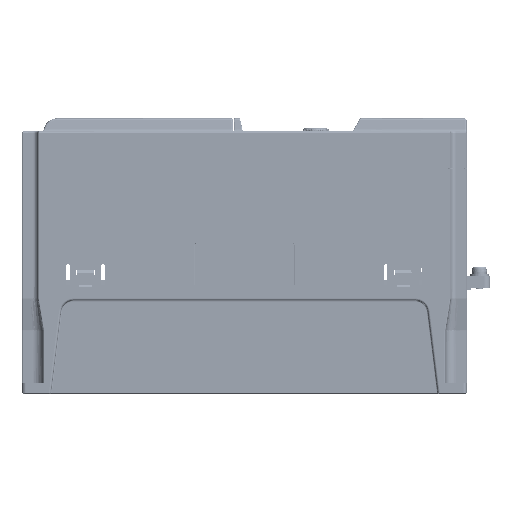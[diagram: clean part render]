
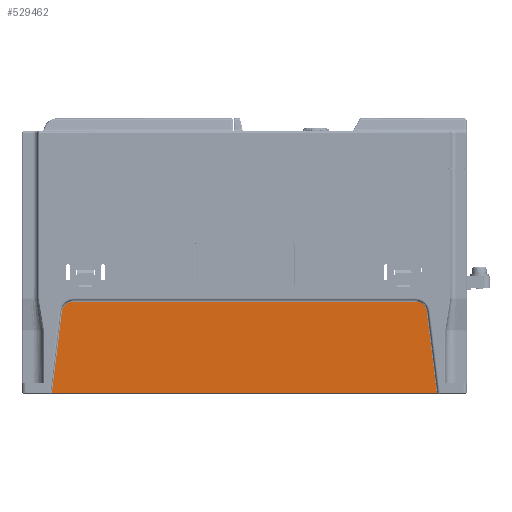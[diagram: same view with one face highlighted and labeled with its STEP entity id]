
A CAD part, left-side view. The second image highlights one B-rep face of the part: STEP entity #529462.
In plain terms, the highlighted planar face has unit normal (-1, 0, 0).
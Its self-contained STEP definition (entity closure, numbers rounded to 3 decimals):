
#485052=DIRECTION('',(0.,0.,-1.));
#485053=VECTOR('',#485052,181.675);
#485054=CARTESIAN_POINT('',(2.5,-6.5,-0.163));
#485055=LINE('',#485054,#485053);
#485059=DIRECTION('',(0.,0.993,0.122));
#485060=VECTOR('',#485059,38.457);
#485061=CARTESIAN_POINT('',(2.5,-6.5,-181.837));
#485062=LINE('',#485061,#485060);
#485066=CARTESIAN_POINT('',(2.5,31.,-171.692));
#485067=DIRECTION('',(1.,0.,0.));
#485068=DIRECTION('',(0.,0.122,-0.993));
#485069=AXIS2_PLACEMENT_3D('',#485066,#485067,#485068);
#485074=DIRECTION('',(0.,0.,1.));
#485075=VECTOR('',#485074,161.383);
#485076=CARTESIAN_POINT('',(2.5,36.5,-171.692));
#485077=LINE('',#485076,#485075);
#485081=CARTESIAN_POINT('',(2.5,31.,-10.308));
#485082=DIRECTION('',(1.,0.,0.));
#485083=DIRECTION('',(0.,1.,0.));
#485084=AXIS2_PLACEMENT_3D('',#485081,#485082,#485083);
#485089=DIRECTION('',(0.,-0.993,0.122));
#485090=VECTOR('',#485089,38.457);
#485091=CARTESIAN_POINT('',(2.5,31.67,-4.849));
#485092=LINE('',#485091,#485090);
#485096=CARTESIAN_POINT('',(2.5,-6.5,-181.837));
#504490=CARTESIAN_POINT('',(2.5,36.5,
-10.308));
#504491=CARTESIAN_POINT('',(2.5,31.67,
-4.849));
#504492=VERTEX_POINT('',#504490);
#504493=VERTEX_POINT('',#504491);
#504498=CARTESIAN_POINT('',(2.5,36.5,-171.692));
#504499=VERTEX_POINT('',#504498);
#504502=CARTESIAN_POINT('',(2.5,31.67,
-177.151));
#504503=VERTEX_POINT('',#504502);
#504507=VERTEX_POINT('',#485096);
#504510=CARTESIAN_POINT('',(2.5,-6.5,-0.163));
#504511=VERTEX_POINT('',#504510);
#529445=CARTESIAN_POINT('',(2.5,45.,50.));
#529446=DIRECTION('',(-1.,0.,0.));
#529447=DIRECTION('',(0.,0.,1.));
#529448=AXIS2_PLACEMENT_3D('',#529445,#529446,#529447);
#529449=PLANE('',#529448);
#529450=ORIENTED_EDGE('',*,*,#529165,.T.);
#529452=ORIENTED_EDGE('',*,*,#529451,.T.);
#529454=ORIENTED_EDGE('',*,*,#529453,.T.);
#529456=ORIENTED_EDGE('',*,*,#529455,.T.);
#529458=ORIENTED_EDGE('',*,*,#529457,.T.);
#529459=ORIENTED_EDGE('',*,*,#529437,.T.);
#529460=EDGE_LOOP('',(#529450,#529452,#529454,#529456,#529458,#529459));
#529461=FACE_OUTER_BOUND('',#529460,.F.);
#485070=CIRCLE('',#485069,5.5);
#485085=CIRCLE('',#485084,5.5);
#529165=EDGE_CURVE('',#504511,#504507,#485055,.T.);
#529437=EDGE_CURVE('',#504493,#504511,#485092,.T.);
#529451=EDGE_CURVE('',#504507,#504503,#485062,.T.);
#529453=EDGE_CURVE('',#504503,#504499,#485070,.T.);
#529455=EDGE_CURVE('',#504499,#504492,#485077,.T.);
#529457=EDGE_CURVE('',#504492,#504493,#485085,.T.);
#529462=ADVANCED_FACE('',(#529461),#529449,.T.);
